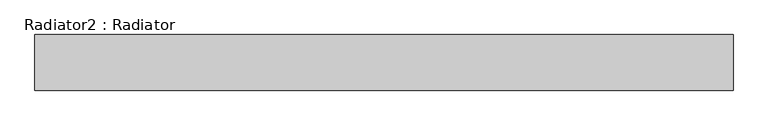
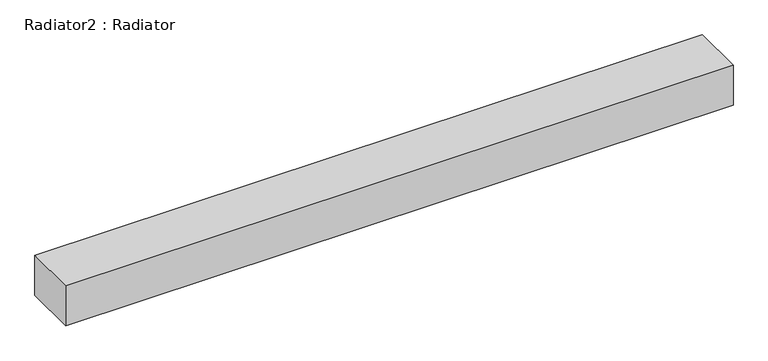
"""IFC4 building model written with IfcOpenShell, lengths in millimetres: proxy geometry, Radiator2 : Radiator."""

from ifc_helpers import new_model, si_unit, frame, origin, place, context, project, spatial, polyline, outline, extrude, source, transform, mapped, element, save


def radiator2_radiator_12a4a68e(model_context):
    return source(origin(), model_context, "Body", "SweptSolid", [
        extrude(outline(polyline([(-8574.3902447, -6010.5270567), (-274.9578349, -6010.5270567), (-274.9578349, -6672.3064015), (-8574.3902447, -6672.3064015), (-8574.3902447, -6010.5270567)])), frame((0.0, 0.0, 51206.4), z_axis=(0.0, 0.0, 1.0), x_axis=(1.0, 0.0, 0.0)), (0.0, 0.0, 1.0), 526.0281286),
    ])


if __name__ == "__main__":
    model = new_model("IFC4")
    model_context = context("Model", 3, world=origin())
    ifc_project = project(units=[si_unit("LENGTHUNIT", "METRE", prefix="MILLI")], contexts=[model_context])
    site = spatial("IfcSite", under=ifc_project)
    building = spatial("IfcBuilding", under=site)
    placement = place(None, origin())
    radiator2_radiator_shape = radiator2_radiator_12a4a68e(model_context)
    element("IfcBuildingElementProxy", 1, Name="Radiator2 : Radiator", ObjectType="Radiator2 : Radiator", at=placement, inside=building, context=model_context, shape_type="MappedRepresentation", body=[
        mapped(radiator2_radiator_shape, transform((0.0, 0.0, 0.0), x_axis=(1.0, 0.0, 0.0), y_axis=(0.0, 1.0, 0.0), z_axis=(0.0, 0.0, 1.0))),
    ])
    save(model, "model.ifc")
